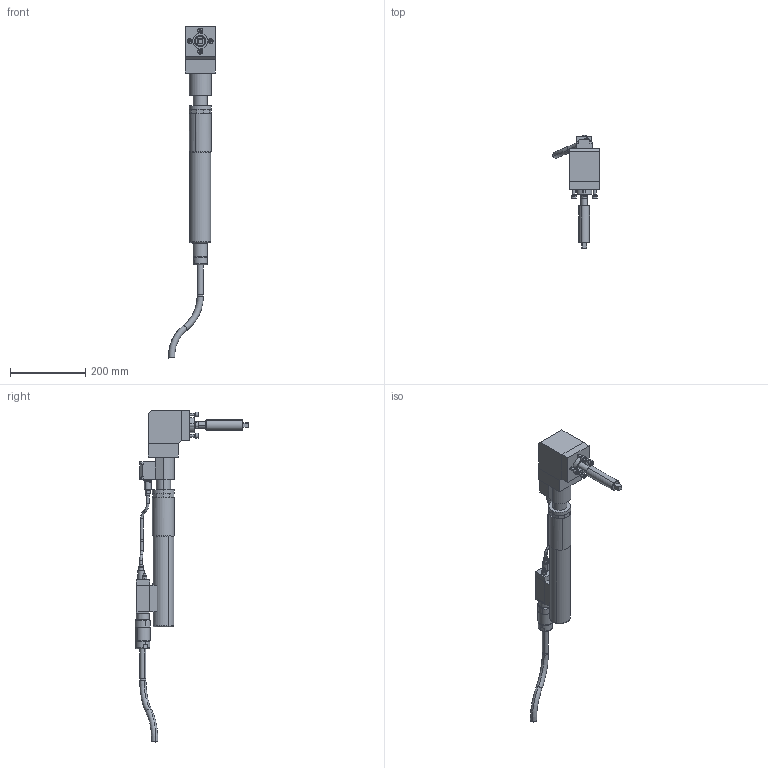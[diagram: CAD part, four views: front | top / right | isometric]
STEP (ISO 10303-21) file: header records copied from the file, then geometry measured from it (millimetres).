
FILE_DESCRIPTION(('CATIA V5 STEP Exchange'),'2;1');
FILE_NAME('C:\pro\7920305_ECR211_DWR120_AW250_AllCATPart.stp','2008-11-10T09:30:57+00:00',('none'),('none'),'CATIA Version 5 Release 17 (IN-10)','CATIA V5 STEP AP203','none');
FILE_SCHEMA(('CONFIG_CONTROL_DESIGN'));
Length unit declared in the file: millimetre
Products named in the file (1): 7920305_ECR211_DWR120_AW250_AllCATPart
Bounding box: 123.82 x 300.98 x 881.16 mm (x, y, z)
Volume: 2598114.5 mm3; surface area: 287776.6 mm2
Topology: 20 solids, 20 shells, 465 faces, 1022 edges, 632 vertices
Faces by surface type: plane 216, cylinder 151, cone 58, torus 40
Entity records: 11988 total; most frequent: CARTESIAN_POINT 2404, ORIENTED_EDGE 2020, DIRECTION 1668, EDGE_CURVE 1010, AXIS2_PLACEMENT_3D 794, VERTEX_POINT 632, VECTOR 524, LINE 524
